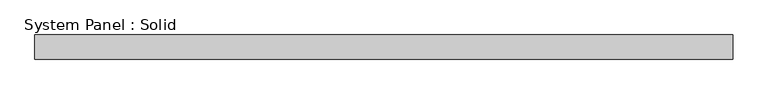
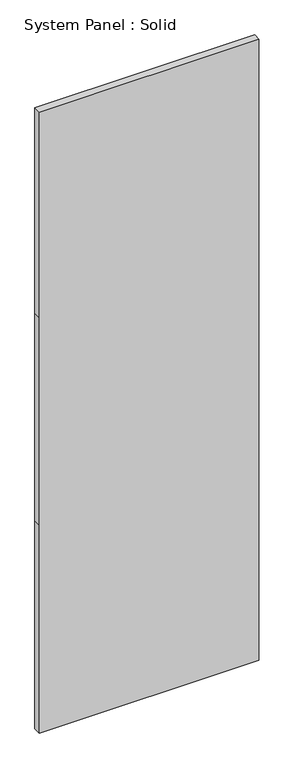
"""IFC4 building model written with IfcOpenShell, lengths in millimetres: plate geometry, System Panel : Solid."""

from ifc_helpers import new_model, si_unit, frame, origin, place, context, project, spatial, polyline, outline, extrude, source, transform, mapped, element, save


def system_panel_solid_58763ecb(model_context):
    return source(origin(), model_context, "Body", "SweptSolid", [
        extrude(outline(polyline([(0.0, -500.0), (0.0, 500.0), (1000.0, 500.0), (2000.0, 500.0), (2990.0, 500.0), (2990.0, -500.0), (2000.0, -500.0), (1000.0, -500.0), (0.0, -500.0)])), frame((0.0, -2.5, 0.0), z_axis=(0.0, 1.0, 0.0), x_axis=(0.0, 0.0, 1.0)), (0.0, 0.0, 1.0), 35.0),
    ])


if __name__ == "__main__":
    model = new_model("IFC4")
    model_context = context("Model", 3, world=origin())
    ifc_project = project(units=[si_unit("LENGTHUNIT", "METRE", prefix="MILLI")], contexts=[model_context])
    site = spatial("IfcSite", under=ifc_project)
    building = spatial("IfcBuilding", under=site)
    placement = place(None, origin())
    system_panel_solid_shape = system_panel_solid_58763ecb(model_context)
    element("IfcPlate", 1, ObjectType="System Panel : Solid", at=placement, inside=building, context=model_context, shape_type="MappedRepresentation", body=[
        mapped(system_panel_solid_shape, transform((0.0, 0.0, 0.0), x_axis=(1.0, 0.0, 0.0), y_axis=(0.0, 1.0, 0.0), z_axis=(0.0, 0.0, 1.0))),
    ])
    save(model, "model.ifc")
